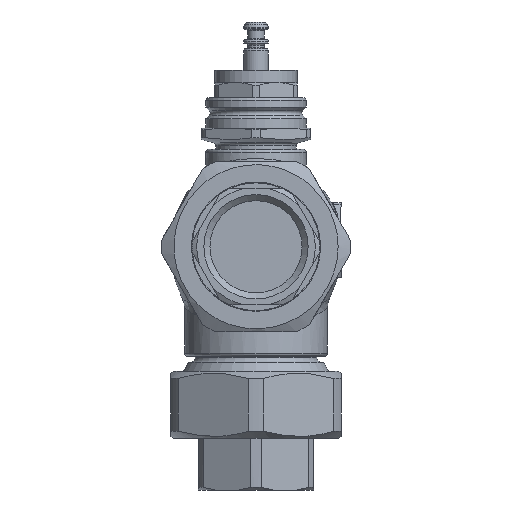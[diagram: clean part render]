
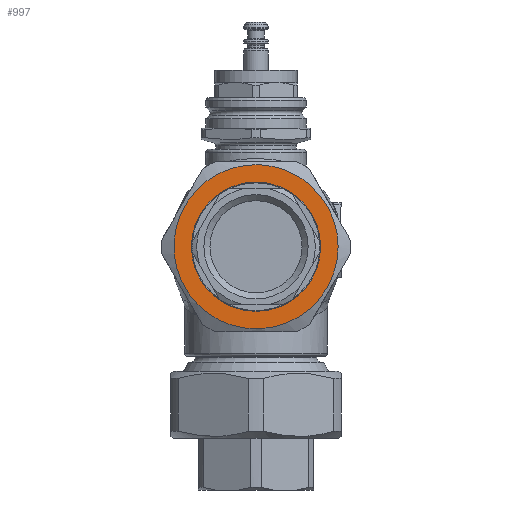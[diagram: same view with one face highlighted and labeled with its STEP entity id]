
A CAD part, left-side view. The second image highlights one B-rep face of the part: STEP entity #997.
In plain terms, the highlighted planar face has unit normal (-1, 0, 0).
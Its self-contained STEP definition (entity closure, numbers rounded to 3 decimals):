
#492=PLANE('',#4446);
#719=FACE_BOUND('',#1530,.T.);
#720=FACE_BOUND('',#1531,.T.);
#997=ADVANCED_FACE('',(#719,#720),#492,.T.);
#1530=EDGE_LOOP('',(#2451));
#1531=EDGE_LOOP('',(#2452));
#1912=CIRCLE('',#4444,21.25);
#1913=CIRCLE('',#4445,27.);
#2451=ORIENTED_EDGE('',*,*,#3763,.T.);
#2452=ORIENTED_EDGE('',*,*,#3764,.T.);
#3318=VERTEX_POINT('',#6546);
#3319=VERTEX_POINT('',#6548);
#3763=EDGE_CURVE('',#3318,#3318,#1912,.T.);
#3764=EDGE_CURVE('',#3319,#3319,#1913,.T.);
#4444=AXIS2_PLACEMENT_3D('',#6545,#5224,#5225);
#4445=AXIS2_PLACEMENT_3D('',#6547,#5226,#5227);
#4446=AXIS2_PLACEMENT_3D('',#6549,#5228,#5229);
#5224=DIRECTION('',(1.,0.,0.));
#5225=DIRECTION('',(0.,1.,0.));
#5226=DIRECTION('',(-1.,0.,0.));
#5227=DIRECTION('',(0.,-1.,0.));
#5228=DIRECTION('',(-1.,0.,0.));
#5229=DIRECTION('',(0.,-1.,0.));
#6545=CARTESIAN_POINT('',(37.,0.,100.));
#6546=CARTESIAN_POINT('',(37.,21.25,100.));
#6547=CARTESIAN_POINT('',(37.,0.,100.));
#6548=CARTESIAN_POINT('',(37.,-27.,100.));
#6549=CARTESIAN_POINT('',(37.,0.,100.));
